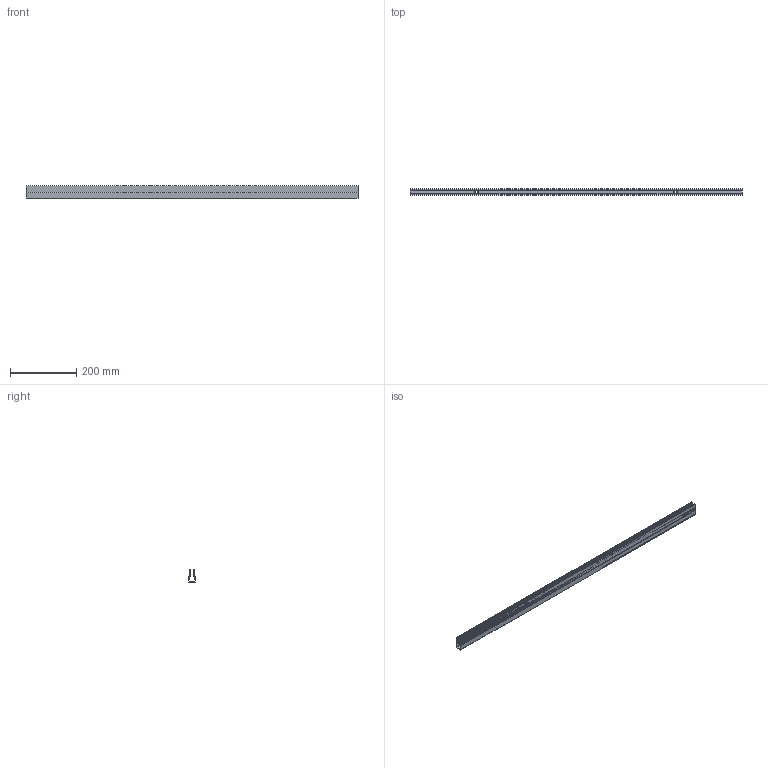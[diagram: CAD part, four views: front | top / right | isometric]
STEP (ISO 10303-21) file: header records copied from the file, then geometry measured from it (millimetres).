
FILE_DESCRIPTION(/* description */ (''),/* implementation_level */ '2;1');
FILE_NAME(/* name */ 'NF_1121+1128_STRAIGHT_PROFILE_CABLE_DUCT_L1000_R01.step',/* time_stamp */ '2026-07-17T18:18:34+02:00',/* author */ (''),/* organization */ (''),/* preprocessor_version */ 'ST-DEVELOPER v20.1',/* originating_system */ 'Autodesk Translation Framework v15.8.0.0',/* authorisation */ '');
FILE_SCHEMA (('AUTOMOTIVE_DESIGN { 1 0 10303 214 3 1 1 }'));
Length unit declared in the file: millimetre
Products named in the file (1): 2026-07-17-17-55-01-177
Bounding box: 1000 x 19.39 x 37.49 mm (x, y, z)
Volume: 185038.4 mm3; surface area: 283389 mm2
Topology: 3 solids, 3 shells, 177 faces, 513 edges, 342 vertices
Faces by surface type: plane 79, bspline 64, cylinder 34
Entity records: 6969 total; most frequent: CARTESIAN_POINT 2581, ORIENTED_EDGE 1026, DIRECTION 725, EDGE_CURVE 513, VERTEX_POINT 342, LINE 317, VECTOR 317, AXIS2_PLACEMENT_3D 204
